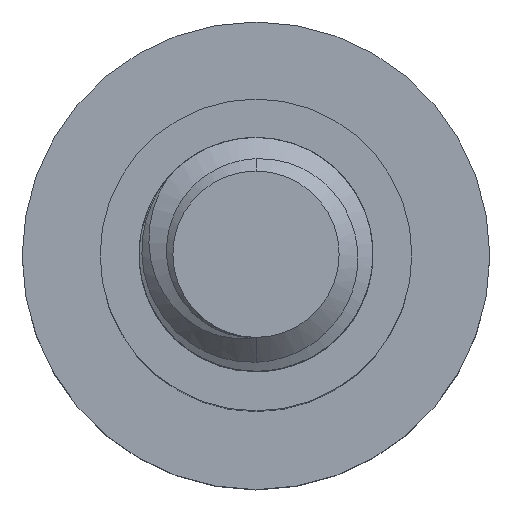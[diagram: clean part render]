
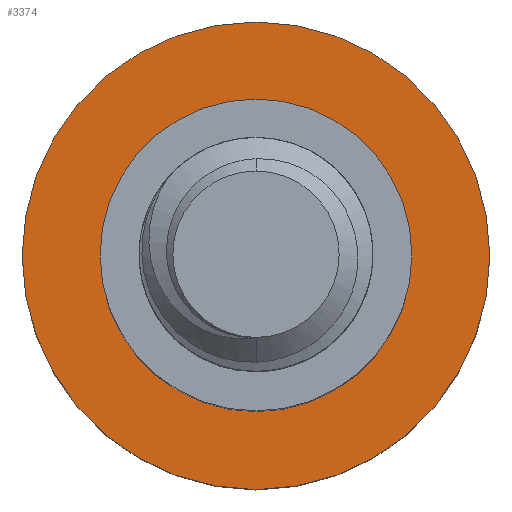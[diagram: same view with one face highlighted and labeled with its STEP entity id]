
A CAD part, top view. The second image highlights one B-rep face of the part: STEP entity #3374.
In plain terms, the highlighted planar face has unit normal (0, 0, 1).
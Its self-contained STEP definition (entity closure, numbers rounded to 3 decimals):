
#52 = CARTESIAN_POINT ( 'NONE',  ( 0., 0., -12. ) ) ;
#171 = CARTESIAN_POINT ( 'NONE',  ( -6., 0., -12. ) ) ;
#311 = AXIS2_PLACEMENT_3D ( 'NONE', #2615, #993, #1917 ) ;
#312 = DIRECTION ( 'NONE',  ( -1., 0., 0. ) ) ;
#359 = EDGE_CURVE ( 'NONE', #4068, #2335, #1262, .T. ) ;
#454 = AXIS2_PLACEMENT_3D ( 'NONE', #52, #3352, #3046 ) ;
#455 = FACE_BOUND ( 'NONE', #4254, .T. ) ;
#474 = CARTESIAN_POINT ( 'NONE',  ( -4., 0., -12. ) ) ;
#527 = ORIENTED_EDGE ( 'NONE', *, *, #1619, .F. ) ;
#647 = CIRCLE ( 'NONE', #4173, 6. ) ;
#993 = DIRECTION ( 'NONE',  ( 0., 0., -1. ) ) ;
#1262 = CIRCLE ( 'NONE', #1408, 4. ) ;
#1408 = AXIS2_PLACEMENT_3D ( 'NONE', #3291, #3671, #312 ) ;
#1520 = ORIENTED_EDGE ( 'NONE', *, *, #2914, .T. ) ;
#1619 = EDGE_CURVE ( 'NONE', #1821, #3600, #647, .T. ) ;
#1733 = PLANE ( 'NONE',  #454 ) ;
#1821 = VERTEX_POINT ( 'NONE', #4089 ) ;
#1917 = DIRECTION ( 'NONE',  ( -1., 0., 0. ) ) ;
#2100 = AXIS2_PLACEMENT_3D ( 'NONE', #3560, #2564, #2628 ) ;
#2335 = VERTEX_POINT ( 'NONE', #4197 ) ;
#2411 = ORIENTED_EDGE ( 'NONE', *, *, #2446, .F. ) ;
#2446 = EDGE_CURVE ( 'NONE', #3600, #1821, #3555, .T. ) ;
#2540 = DIRECTION ( 'NONE',  ( 0., 0., -1. ) ) ;
#2564 = DIRECTION ( 'NONE',  ( 0., 0., -1. ) ) ;
#2615 = CARTESIAN_POINT ( 'NONE',  ( 0., 0., -12. ) ) ;
#2628 = DIRECTION ( 'NONE',  ( -1., 0., 0. ) ) ;
#2732 = ORIENTED_EDGE ( 'NONE', *, *, #359, .T. ) ;
#2903 = DIRECTION ( 'NONE',  ( -1., 0., 0. ) ) ;
#2914 = EDGE_CURVE ( 'NONE', #2335, #4068, #3634, .T. ) ;
#3046 = DIRECTION ( 'NONE',  ( -1., 0., 0. ) ) ;
#3291 = CARTESIAN_POINT ( 'NONE',  ( 0., 0., -12. ) ) ;
#3295 = EDGE_LOOP ( 'NONE', ( #527, #2411 ) ) ;
#3352 = DIRECTION ( 'NONE',  ( 0., 0., -1. ) ) ;
#3374 = ADVANCED_FACE ( 'NONE', ( #455, #4065 ), #1733, .F. ) ;
#3554 = CARTESIAN_POINT ( 'NONE',  ( 0., 0., -12. ) ) ;
#3555 = CIRCLE ( 'NONE', #311, 6. ) ;
#3560 = CARTESIAN_POINT ( 'NONE',  ( 0., 0., -12. ) ) ;
#3600 = VERTEX_POINT ( 'NONE', #171 ) ;
#3634 = CIRCLE ( 'NONE', #2100, 4. ) ;
#3671 = DIRECTION ( 'NONE',  ( 0., 0., -1. ) ) ;
#4065 = FACE_OUTER_BOUND ( 'NONE', #3295, .T. ) ;
#4068 = VERTEX_POINT ( 'NONE', #474 ) ;
#4089 = CARTESIAN_POINT ( 'NONE',  ( 6., 0., -12. ) ) ;
#4173 = AXIS2_PLACEMENT_3D ( 'NONE', #3554, #2540, #2903 ) ;
#4197 = CARTESIAN_POINT ( 'NONE',  ( 4., 0., -12. ) ) ;
#4254 = EDGE_LOOP ( 'NONE', ( #2732, #1520 ) ) ;
